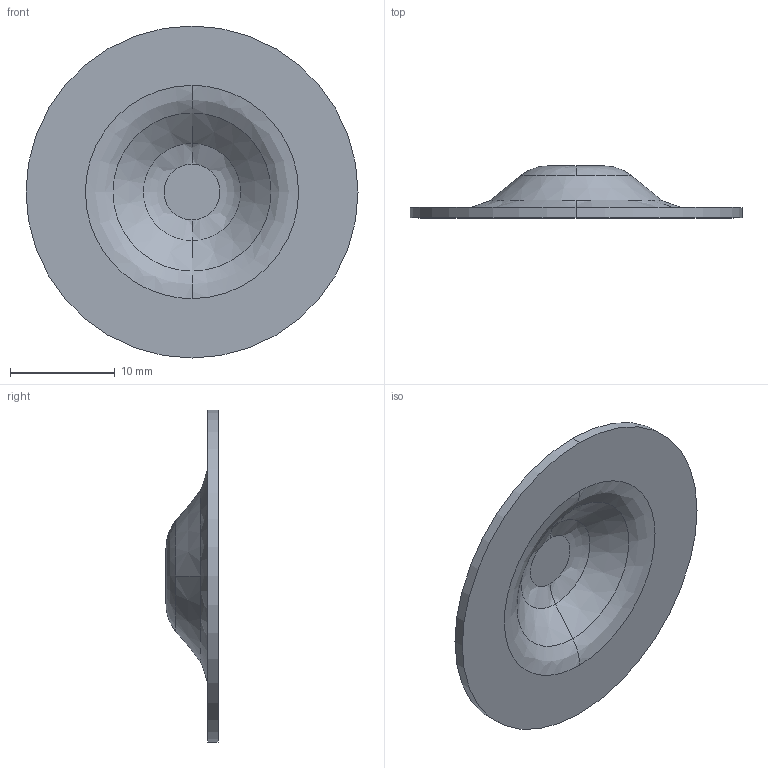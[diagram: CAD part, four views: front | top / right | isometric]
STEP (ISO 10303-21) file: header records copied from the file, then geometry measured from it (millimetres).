
FILE_DESCRIPTION (( 'STEP AP214' ), '1' );
FILE_NAME ('SO 570830-10.STEP', '2024-09-16T15:32:32', ( '' ), ( '' ), 'SwSTEP 2.0', 'SolidWorks 2024', '' );
FILE_SCHEMA (( 'AUTOMOTIVE_DESIGN' ));
Length unit declared in the file: inch
Products named in the file (1): SO 570830-10
Bounding box: 31.75 x 4.98 x 31.75 mm (x, y, z)
Volume: 832.7 mm3; surface area: 1779.9 mm2
Topology: 1 solids, 1 shells, 18 faces, 38 edges, 24 vertices
Faces by surface type: bspline 8, cone 4, plane 4, cylinder 2
Entity records: 679 total; most frequent: CARTESIAN_POINT 293, DIRECTION 76, ORIENTED_EDGE 76, EDGE_CURVE 38, AXIS2_PLACEMENT_3D 35, VERTEX_POINT 24, CIRCLE 24, EDGE_LOOP 20
